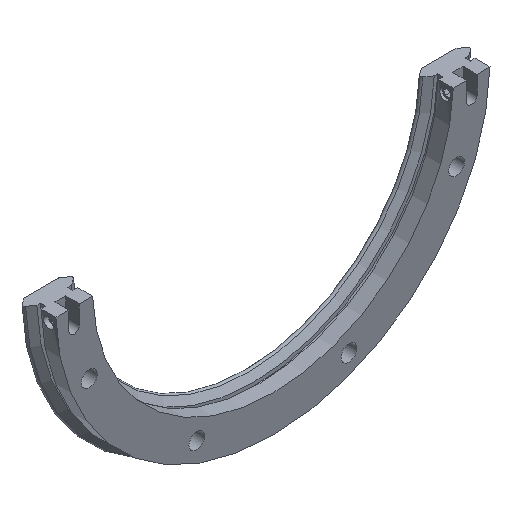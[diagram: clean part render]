
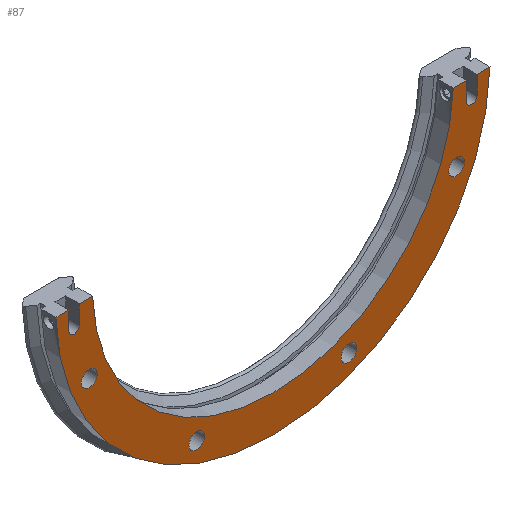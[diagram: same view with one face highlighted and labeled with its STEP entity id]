
A CAD part, isometric view. The second image highlights one B-rep face of the part: STEP entity #87.
In plain terms, the highlighted planar face has unit normal (0, -1, 0).
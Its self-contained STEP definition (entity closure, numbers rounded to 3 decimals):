
#87 = ADVANCED_FACE( '', ( #181, #182, #183, #184, #185 ), #186, .T. );
#181 = FACE_BOUND( '', #362, .T. );
#182 = FACE_BOUND( '', #363, .T. );
#183 = FACE_BOUND( '', #364, .T. );
#184 = FACE_BOUND( '', #365, .T. );
#185 = FACE_OUTER_BOUND( '', #366, .T. );
#186 = PLANE( '', #367 );
#362 = EDGE_LOOP( '', ( #598 ) );
#363 = EDGE_LOOP( '', ( #599 ) );
#364 = EDGE_LOOP( '', ( #600 ) );
#365 = EDGE_LOOP( '', ( #601 ) );
#366 = EDGE_LOOP( '', ( #602, #603, #604, #605, #606, #607, #608, #609, #610, #611, #612, #613 ) );
#367 = AXIS2_PLACEMENT_3D( '', #614, #615, #616 );
#598 = ORIENTED_EDGE( '', *, *, #1112, .F. );
#599 = ORIENTED_EDGE( '', *, *, #1113, .F. );
#600 = ORIENTED_EDGE( '', *, *, #1104, .F. );
#601 = ORIENTED_EDGE( '', *, *, #1108, .F. );
#602 = ORIENTED_EDGE( '', *, *, #1114, .T. );
#603 = ORIENTED_EDGE( '', *, *, #1115, .T. );
#604 = ORIENTED_EDGE( '', *, *, #1071, .T. );
#605 = ORIENTED_EDGE( '', *, *, #1116, .F. );
#606 = ORIENTED_EDGE( '', *, *, #1117, .T. );
#607 = ORIENTED_EDGE( '', *, *, #1100, .T. );
#608 = ORIENTED_EDGE( '', *, *, #1097, .T. );
#609 = ORIENTED_EDGE( '', *, *, #1102, .T. );
#610 = ORIENTED_EDGE( '', *, *, #1118, .T. );
#611 = ORIENTED_EDGE( '', *, *, #1119, .T. );
#612 = ORIENTED_EDGE( '', *, *, #1075, .T. );
#613 = ORIENTED_EDGE( '', *, *, #1120, .T. );
#614 = CARTESIAN_POINT( '', ( -42.2, 0., 0. ) );
#615 = DIRECTION( '', ( 0., -1., 0. ) );
#616 = DIRECTION( '', ( 0., 0., -1. ) );
#1071 = EDGE_CURVE( '', #1240, #1241, #1242, .T. );
#1075 = EDGE_CURVE( '', #1249, #1247, #1250, .T. );
#1097 = EDGE_CURVE( '', #1292, #1293, #1294, .T. );
#1100 = EDGE_CURVE( '', #1297, #1292, #1298, .T. );
#1102 = EDGE_CURVE( '', #1293, #1300, #1301, .T. );
#1104 = EDGE_CURVE( '', #1303, #1303, #1304, .T. );
#1108 = EDGE_CURVE( '', #1311, #1311, #1312, .T. );
#1112 = EDGE_CURVE( '', #1319, #1319, #1320, .T. );
#1113 = EDGE_CURVE( '', #1321, #1321, #1322, .T. );
#1114 = EDGE_CURVE( '', #1323, #1324, #1325, .T. );
#1115 = EDGE_CURVE( '', #1324, #1240, #1326, .T. );
#1116 = EDGE_CURVE( '', #1327, #1241, #1328, .T. );
#1117 = EDGE_CURVE( '', #1327, #1297, #1329, .T. );
#1118 = EDGE_CURVE( '', #1300, #1330, #1331, .T. );
#1119 = EDGE_CURVE( '', #1330, #1249, #1332, .T. );
#1120 = EDGE_CURVE( '', #1247, #1323, #1333, .T. );
#1240 = VERTEX_POINT( '', #1528 );
#1241 = VERTEX_POINT( '', #1529 );
#1242 = LINE( '', #1530, #1531 );
#1247 = VERTEX_POINT( '', #1538 );
#1249 = VERTEX_POINT( '', #1541 );
#1250 = LINE( '', #1542, #1543 );
#1292 = VERTEX_POINT( '', #1664 );
#1293 = VERTEX_POINT( '', #1665 );
#1294 = CIRCLE( '', #1666, 1.25 );
#1297 = VERTEX_POINT( '', #1671 );
#1298 = LINE( '', #1672, #1673 );
#1300 = VERTEX_POINT( '', #1676 );
#1301 = LINE( '', #1677, #1678 );
#1303 = VERTEX_POINT( '', #1681 );
#1304 = CIRCLE( '', #1682, 1.85 );
#1311 = VERTEX_POINT( '', #1689 );
#1312 = CIRCLE( '', #1690, 1.85 );
#1319 = VERTEX_POINT( '', #1697 );
#1320 = CIRCLE( '', #1698, 1.85 );
#1321 = VERTEX_POINT( '', #1699 );
#1322 = CIRCLE( '', #1700, 1.85 );
#1323 = VERTEX_POINT( '', #1701 );
#1324 = VERTEX_POINT( '', #1702 );
#1325 = CIRCLE( '', #1703, 1.25 );
#1326 = LINE( '', #1704, #1705 );
#1327 = VERTEX_POINT( '', #1706 );
#1328 = CIRCLE( '', #1707, 42.2 );
#1329 = LINE( '', #1708, #1709 );
#1330 = VERTEX_POINT( '', #1710 );
#1331 = LINE( '', #1711, #1712 );
#1332 = CIRCLE( '', #1713, 50.8 );
#1333 = LINE( '', #1714, #1715 );
#1528 = CARTESIAN_POINT( '', ( 45.25, 0., -1.5 ) );
#1529 = CARTESIAN_POINT( '', ( 42.173, 0., -1.5 ) );
#1530 = CARTESIAN_POINT( '', ( 52.685, 0., -1.5 ) );
#1531 = VECTOR( '', #2136, 1000. );
#1538 = CARTESIAN_POINT( '', ( 47.75, 0., -1.5 ) );
#1541 = CARTESIAN_POINT( '', ( 50.778, 0., -1.5 ) );
#1542 = CARTESIAN_POINT( '', ( 52.685, 0., -1.5 ) );
#1543 = VECTOR( '', #2140, 1000. );
#1664 = CARTESIAN_POINT( '', ( -45.25, 0., -5.75 ) );
#1665 = CARTESIAN_POINT( '', ( -47.75, 0., -5.75 ) );
#1666 = AXIS2_PLACEMENT_3D( '', #2159, #2160, #2161 );
#1671 = CARTESIAN_POINT( '', ( -45.25, 0., -1.5 ) );
#1672 = CARTESIAN_POINT( '', ( -45.25, 0., 0. ) );
#1673 = VECTOR( '', #2164, 1000. );
#1676 = CARTESIAN_POINT( '', ( -47.75, 0., -1.5 ) );
#1677 = CARTESIAN_POINT( '', ( -47.75, 0., -5.75 ) );
#1678 = VECTOR( '', #2166, 1000. );
#1681 = CARTESIAN_POINT( '', ( -42.96, 0., -19.645 ) );
#1682 = AXIS2_PLACEMENT_3D( '', #2168, #2169, #2170 );
#1689 = CARTESIAN_POINT( '', ( -17.795, 0., -44.81 ) );
#1690 = AXIS2_PLACEMENT_3D( '', #2180, #2181, #2182 );
#1697 = CARTESIAN_POINT( '', ( 42.96, 0., -19.645 ) );
#1698 = AXIS2_PLACEMENT_3D( '', #2192, #2193, #2194 );
#1699 = CARTESIAN_POINT( '', ( 17.795, 0., -44.81 ) );
#1700 = AXIS2_PLACEMENT_3D( '', #2195, #2196, #2197 );
#1701 = CARTESIAN_POINT( '', ( 47.75, 0., -5.75 ) );
#1702 = CARTESIAN_POINT( '', ( 45.25, 0., -5.75 ) );
#1703 = AXIS2_PLACEMENT_3D( '', #2198, #2199, #2200 );
#1704 = CARTESIAN_POINT( '', ( 45.25, 0., -5.75 ) );
#1705 = VECTOR( '', #2201, 1000. );
#1706 = CARTESIAN_POINT( '', ( -42.173, 0., -1.5 ) );
#1707 = AXIS2_PLACEMENT_3D( '', #2202, #2203, #2204 );
#1708 = CARTESIAN_POINT( '', ( 52.685, 0., -1.5 ) );
#1709 = VECTOR( '', #2205, 1000. );
#1710 = CARTESIAN_POINT( '', ( -50.778, 0., -1.5 ) );
#1711 = CARTESIAN_POINT( '', ( 52.685, 0., -1.5 ) );
#1712 = VECTOR( '', #2206, 1000. );
#1713 = AXIS2_PLACEMENT_3D( '', #2207, #2208, #2209 );
#1714 = CARTESIAN_POINT( '', ( 47.75, 0., 0. ) );
#1715 = VECTOR( '', #2210, 1000. );
#2136 = DIRECTION( '', ( -1., 0., 0. ) );
#2140 = DIRECTION( '', ( -1., 0., 0. ) );
#2159 = CARTESIAN_POINT( '', ( -46.5, 0., -5.75 ) );
#2160 = DIRECTION( '', ( 0., 1., 0. ) );
#2161 = DIRECTION( '', ( 1., 0., 0. ) );
#2164 = DIRECTION( '', ( 0., 0., -1. ) );
#2166 = DIRECTION( '', ( 0., 0., 1. ) );
#2168 = CARTESIAN_POINT( '', ( -42.96, 0., -17.795 ) );
#2169 = DIRECTION( '', ( 0., -1., 0. ) );
#2170 = DIRECTION( '', ( 0., 0., -1. ) );
#2180 = CARTESIAN_POINT( '', ( -17.795, 0., -42.96 ) );
#2181 = DIRECTION( '', ( 0., -1., 0. ) );
#2182 = DIRECTION( '', ( 0., 0., -1. ) );
#2192 = CARTESIAN_POINT( '', ( 42.96, 0., -17.795 ) );
#2193 = DIRECTION( '', ( 0., -1., 0. ) );
#2194 = DIRECTION( '', ( 0., 0., -1. ) );
#2195 = CARTESIAN_POINT( '', ( 17.795, 0., -42.96 ) );
#2196 = DIRECTION( '', ( 0., -1., 0. ) );
#2197 = DIRECTION( '', ( 0., 0., -1. ) );
#2198 = CARTESIAN_POINT( '', ( 46.5, 0., -5.75 ) );
#2199 = DIRECTION( '', ( 0., 1., 0. ) );
#2200 = DIRECTION( '', ( 1., 0., 0. ) );
#2201 = DIRECTION( '', ( 0., 0., 1. ) );
#2202 = CARTESIAN_POINT( '', ( 0., 0., 0. ) );
#2203 = DIRECTION( '', ( 0., -1., 0. ) );
#2204 = DIRECTION( '', ( 0., 0., -1. ) );
#2205 = DIRECTION( '', ( -1., 0., 0. ) );
#2206 = DIRECTION( '', ( -1., 0., 0. ) );
#2207 = CARTESIAN_POINT( '', ( 0., 0., 0. ) );
#2208 = DIRECTION( '', ( 0., -1., 0. ) );
#2209 = DIRECTION( '', ( 0., 0., -1. ) );
#2210 = DIRECTION( '', ( 0., 0., -1. ) );
